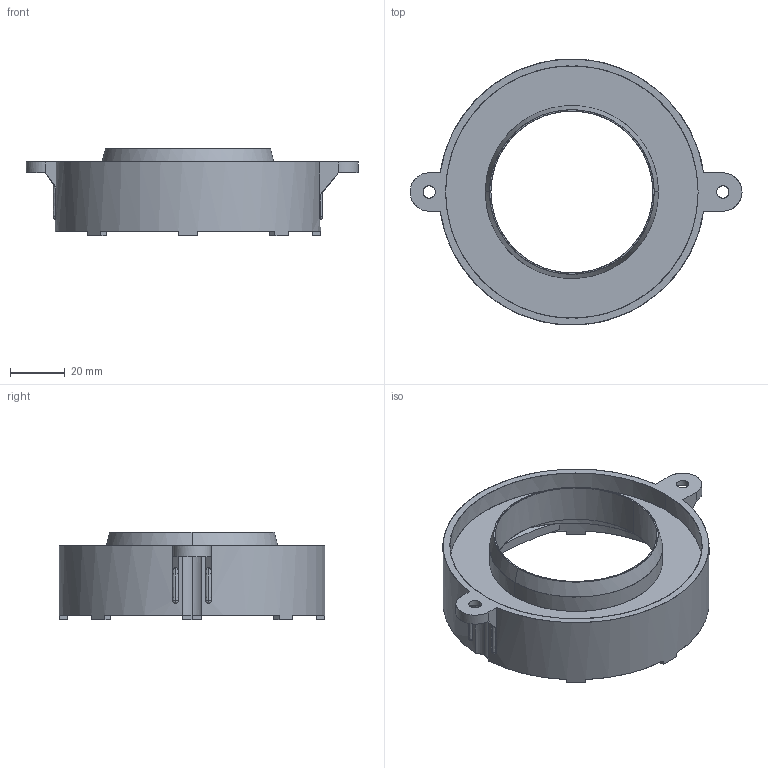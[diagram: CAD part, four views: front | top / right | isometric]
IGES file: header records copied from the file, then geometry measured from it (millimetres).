
Start section: Comment
Global section: file name: 148037385.igs; native system:  By UGS Corp.; preprocessor: XPlus GENERIC/IGES 3.0; author: Author; organization: Title; date: 20080207.152703; units: millimetre
Bounding box: 120.99 x 96.91 x 32 mm (x, y, z)
Surface area: 33321.5 mm2 (no closed solid volume)
Topology: 0 solids, 0 shells, 107 faces, 658 edges, 658 vertices
Faces by surface type: bspline 107
